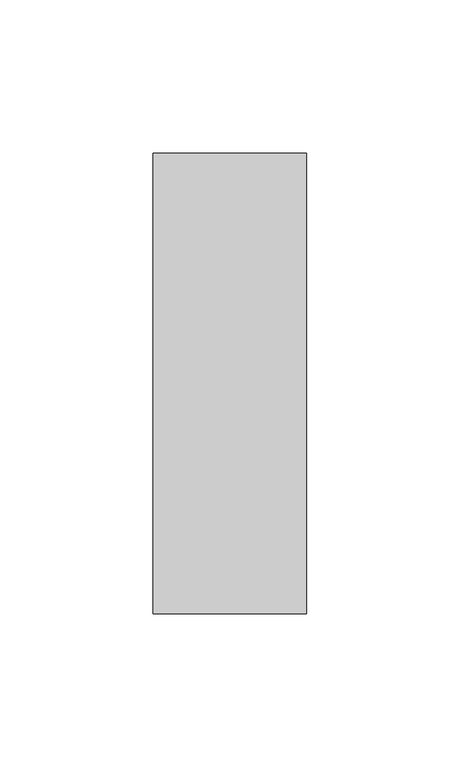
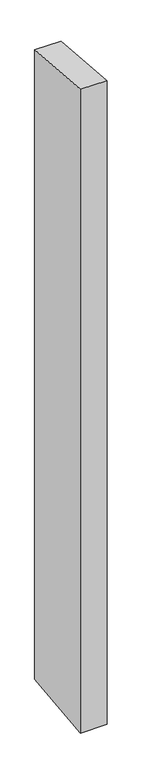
"""IFC4 building model written with IfcOpenShell, lengths in millimetres: member geometry, Прямоугольный импост : 50 x 150 мм."""

from ifc_helpers import new_model, si_unit, origin, place, context, project, spatial, faceted_brep, source, transform, mapped, element, save


def member_417268fb(model_context):
    return source(origin(), model_context, "Body", "Brep", [
        faceted_brep([(-50.0, 75.0, -5.6275997), (0.0, 75.0, -6.0537534), (0.0, 75.0, -1262.2343635), (-50.0, 75.0, -1262.8301475), (-50.0, -75.0, 6.4799071), (-50.0, -75.0, -1279.7570414), (0.0, -75.0, 6.0537534), (0.0, -75.0, -1279.1612574)], [[[0, 1, 2, 3]], [[4, 0, 3, 5]], [[6, 4, 5, 7]], [[1, 6, 7, 2]], [[1, 0, 4, 6]], [[2, 7, 5, 3]]]),
    ])


if __name__ == "__main__":
    model = new_model("IFC4")
    model_context = context("Model", 3, world=origin())
    ifc_project = project(units=[si_unit("LENGTHUNIT", "METRE", prefix="MILLI")], contexts=[model_context])
    site = spatial("IfcSite", under=ifc_project)
    building = spatial("IfcBuilding", under=site)
    placement = place(None, origin())
    member_shape = member_417268fb(model_context)
    element("IfcMember", 1, ObjectType="Прямоугольный импост : 50 x 150 мм", at=placement, inside=building, context=model_context, shape_type="MappedRepresentation", body=[
        mapped(member_shape, transform((0.0, 0.0, 0.0), x_axis=(1.0, 0.0, 0.0), y_axis=(0.0, 1.0, 0.0), z_axis=(0.0, 0.0, 1.0))),
    ])
    save(model, "model.ifc")
